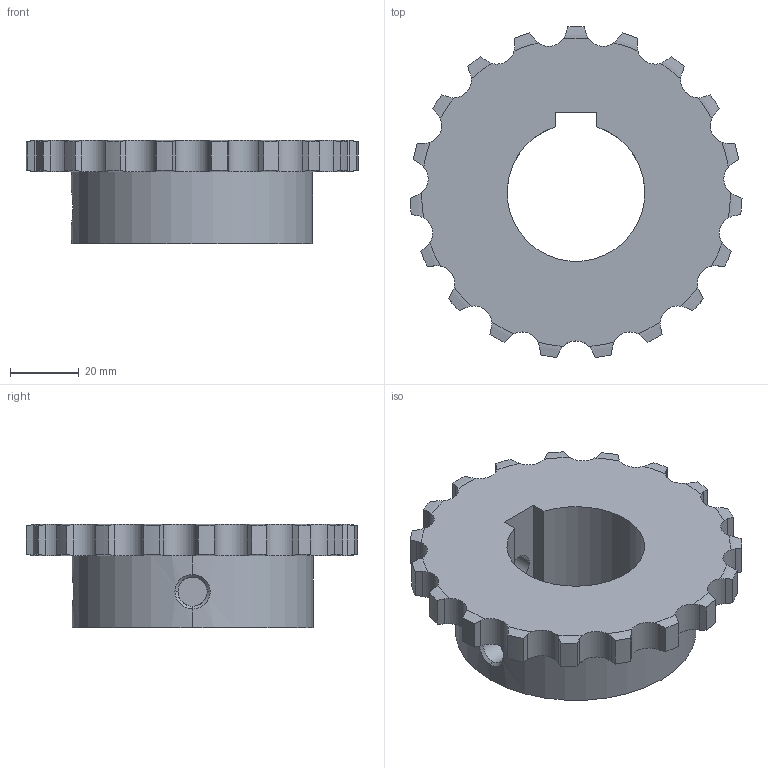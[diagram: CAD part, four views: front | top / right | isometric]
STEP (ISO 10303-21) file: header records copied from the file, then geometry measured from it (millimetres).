
FILE_DESCRIPTION((''),'2;1');
FILE_NAME('510-301-4019_PRT','2021-02-13T',('Brieden'),('Brieden'),'PRO/ENGINEER BY PARAMETRIC TECHNOLOGY CORPORATION, 2010160','PRO/ENGINEER BY PARAMETRIC TECHNOLOGY CORPORATION, 2010160','');
FILE_SCHEMA(('AUTOMOTIVE_DESIGN { 1 0 10303 214 1 1 1 1 }'));
Length unit declared in the file: millimetre
Products named in the file (1): 510-301-4019_PRT
Bounding box: 96.4 x 96.12 x 30 mm (x, y, z)
Volume: 99289.1 mm3; surface area: 23049.8 mm2
Topology: 1 solids, 1 shells, 134 faces, 387 edges, 256 vertices
Faces by surface type: cylinder 83, torus 38, plane 7, bspline 6
Entity records: 6602 total; most frequent: CARTESIAN_POINT 2062, ORIENTED_EDGE 774, DIRECTION 603, PRESENTATION_STYLE_ASSIGNMENT 388, STYLED_ITEM 388, CURVE_STYLE 387, EDGE_CURVE 387, VERTEX_POINT 256
